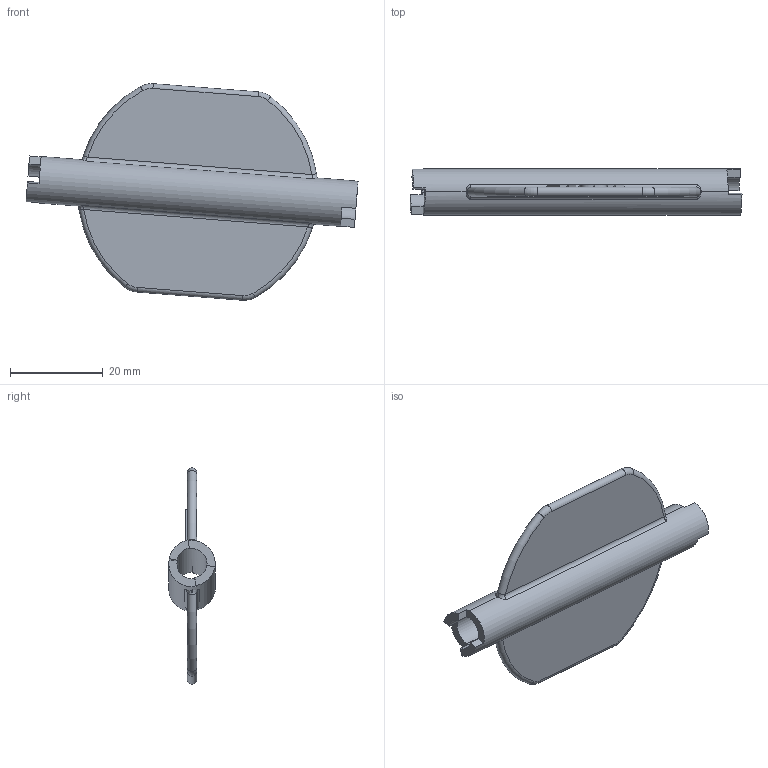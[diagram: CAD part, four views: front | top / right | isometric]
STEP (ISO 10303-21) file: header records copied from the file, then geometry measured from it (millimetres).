
FILE_DESCRIPTION((''),'2;1');
FILE_NAME('0000237114_PRT','2025-11-12T18:36:00',('Wyndorps'),(''),'CREO PARAMETRIC BY PTC INC, 2025010','CREO PARAMETRIC BY PTC INC, 2025010','');
FILE_SCHEMA(('CONFIG_CONTROL_DESIGN'));
Length unit declared in the file: millimetre
Products named in the file (1): 0000237114_PRT
Bounding box: 71.41 x 10 x 46.57 mm (x, y, z)
Volume: 6017.1 mm3; surface area: 6565.7 mm2
Topology: 1 solids, 1 shells, 87 faces, 234 edges, 152 vertices
Faces by surface type: plane 47, cylinder 14, extrusion 10, torus 8, bspline 8
Entity records: 3393 total; most frequent: CARTESIAN_POINT 1252, ORIENTED_EDGE 468, DIRECTION 386, EDGE_CURVE 234, VERTEX_POINT 152, VECTOR 136, LINE 126, AXIS2_PLACEMENT_3D 125
